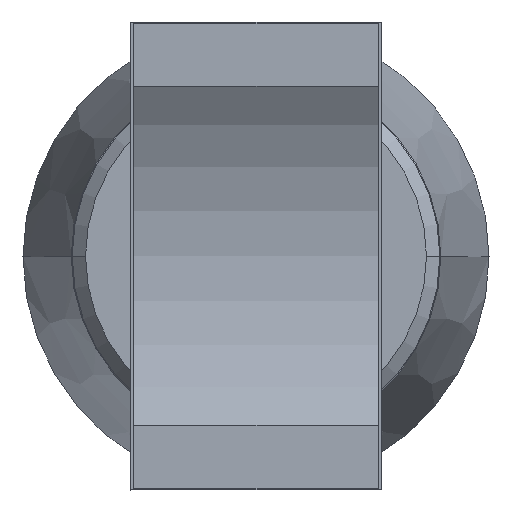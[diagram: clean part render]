
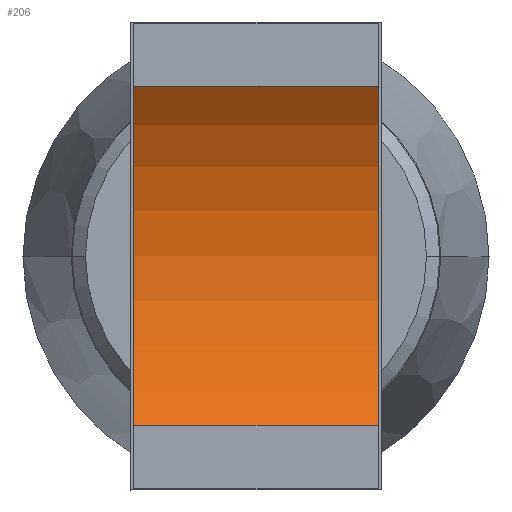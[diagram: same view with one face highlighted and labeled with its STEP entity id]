
A CAD part, top view. The second image highlights one B-rep face of the part: STEP entity #206.
In plain terms, the highlighted cylindrical face has radius 84.15 mm (diameter 168.3 mm), a partial arc.
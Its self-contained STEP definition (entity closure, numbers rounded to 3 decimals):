
#206=ADVANCED_FACE('',(#505),#506,.F.);
#505=FACE_OUTER_BOUND('',#935,.T.);
#506=CYLINDRICAL_SURFACE('',#936,84.15);
#935=EDGE_LOOP('',(#1339,#1340,#1341,#1342));
#936=AXIS2_PLACEMENT_3D('',#1343,#1344,#1345);
#1339=ORIENTED_EDGE('',*,*,#2472,.T.);
#1340=ORIENTED_EDGE('',*,*,#2473,.F.);
#1341=ORIENTED_EDGE('',*,*,#2474,.T.);
#1342=ORIENTED_EDGE('',*,*,#2469,.T.);
#1343=CARTESIAN_POINT('',(463.48,464.004,119.075));
#1344=DIRECTION('',(-1.0,0.,0.));
#1345=DIRECTION('',(0.,-1.0,0.));
#2469=EDGE_CURVE('',#2920,#2918,#2921,.T.);
#2472=EDGE_CURVE('',#2918,#2924,#2925,.T.);
#2473=EDGE_CURVE('',#2926,#2924,#2927,.T.);
#2474=EDGE_CURVE('',#2926,#2920,#2928,.T.);
#2918=VERTEX_POINT('',#3570);
#2920=VERTEX_POINT('',#3573);
#2921=LINE('',#3574,#3575);
#2924=VERTEX_POINT('',#3579);
#2925=CIRCLE('',#3580,84.15);
#2926=VERTEX_POINT('',#3581);
#2927=LINE('',#3582,#3583);
#2928=CIRCLE('',#3584,84.15);
#3570=CARTESIAN_POINT('',(390.48,514.72,51.925));
#3573=CARTESIAN_POINT('',(463.48,514.72,51.925));
#3574=CARTESIAN_POINT('',(463.48,514.72,51.925));
#3575=VECTOR('',#5125,1.0);
#3579=CARTESIAN_POINT('',(390.48,413.288,51.925));
#3580=AXIS2_PLACEMENT_3D('',#5127,#5128,#5129);
#3581=CARTESIAN_POINT('',(463.48,413.288,51.925));
#3582=CARTESIAN_POINT('',(463.48,413.288,51.925));
#3583=VECTOR('',#5130,1.0);
#3584=AXIS2_PLACEMENT_3D('',#5131,#5132,#5133);
#5125=DIRECTION('',(-1.0,0.,0.));
#5127=CARTESIAN_POINT('',(390.48,464.004,119.075));
#5128=DIRECTION('',(-1.0,0.,0.));
#5129=DIRECTION('',(0.,-1.0,0.));
#5130=DIRECTION('',(-1.0,0.,0.));
#5131=CARTESIAN_POINT('',(463.48,464.004,119.075));
#5132=DIRECTION('',(1.0,0.,0.));
#5133=DIRECTION('',(0.,-1.0,0.));
